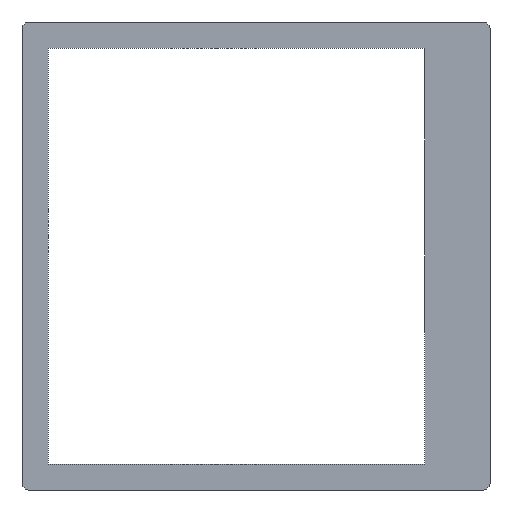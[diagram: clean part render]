
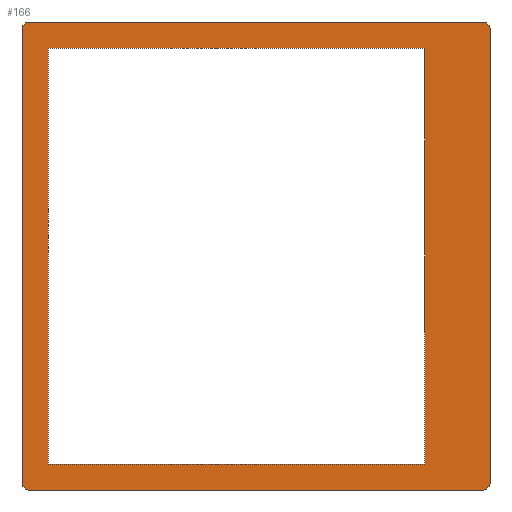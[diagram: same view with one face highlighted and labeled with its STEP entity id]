
A CAD part, front view. The second image highlights one B-rep face of the part: STEP entity #166.
In plain terms, the highlighted planar face has unit normal (0, -1, 0).
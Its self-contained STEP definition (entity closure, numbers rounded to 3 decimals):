
#61=LINE('',#1245,#93);
#66=LINE('',#1284,#98);
#77=LINE('',#1323,#109);
#79=LINE('',#1352,#111);
#82=LINE('',#1358,#114);
#86=LINE('',#1366,#118);
#88=LINE('',#1374,#120);
#89=LINE('',#1376,#121);
#93=VECTOR('',#987,1.);
#98=VECTOR('',#1018,1.);
#109=VECTOR('',#1051,1.);
#111=VECTOR('',#1081,1.);
#114=VECTOR('',#1086,1.);
#118=VECTOR('',#1092,1.);
#120=VECTOR('',#1104,1.);
#121=VECTOR('',#1105,1.);
#166=ADVANCED_FACE('',(#263,#264),#215,.T.);
#215=PLANE('',#911);
#263=FACE_BOUND('',#372,.T.);
#264=FACE_BOUND('',#373,.T.);
#372=EDGE_LOOP('',(#530,#531,#532,#533,#534,#535,#536,#537));
#373=EDGE_LOOP('',(#538,#539,#540,#541));
#530=ORIENTED_EDGE('',*,*,#772,.T.);
#531=ORIENTED_EDGE('',*,*,#774,.T.);
#532=ORIENTED_EDGE('',*,*,#768,.T.);
#533=ORIENTED_EDGE('',*,*,#775,.T.);
#534=ORIENTED_EDGE('',*,*,#765,.T.);
#535=ORIENTED_EDGE('',*,*,#776,.T.);
#536=ORIENTED_EDGE('',*,*,#751,.T.);
#537=ORIENTED_EDGE('',*,*,#777,.T.);
#538=ORIENTED_EDGE('',*,*,#778,.F.);
#539=ORIENTED_EDGE('',*,*,#733,.F.);
#540=ORIENTED_EDGE('',*,*,#715,.F.);
#541=ORIENTED_EDGE('',*,*,#779,.F.);
#637=VERTEX_POINT('',#1244);
#638=VERTEX_POINT('',#1246);
#655=VERTEX_POINT('',#1285);
#667=VERTEX_POINT('',#1322);
#668=VERTEX_POINT('',#1324);
#681=VERTEX_POINT('',#1353);
#682=VERTEX_POINT('',#1354);
#683=VERTEX_POINT('',#1359);
#684=VERTEX_POINT('',#1360);
#685=VERTEX_POINT('',#1365);
#686=VERTEX_POINT('',#1367);
#687=VERTEX_POINT('',#1375);
#715=EDGE_CURVE('',#637,#638,#61,.T.);
#733=EDGE_CURVE('',#638,#655,#66,.T.);
#751=EDGE_CURVE('',#668,#667,#77,.T.);
#765=EDGE_CURVE('',#681,#682,#79,.T.);
#768=EDGE_CURVE('',#683,#684,#82,.T.);
#772=EDGE_CURVE('',#686,#685,#86,.T.);
#774=EDGE_CURVE('',#685,#683,#834,.T.);
#775=EDGE_CURVE('',#684,#681,#835,.T.);
#776=EDGE_CURVE('',#682,#668,#836,.T.);
#777=EDGE_CURVE('',#667,#686,#837,.T.);
#778=EDGE_CURVE('',#655,#687,#88,.T.);
#779=EDGE_CURVE('',#687,#637,#89,.T.);
#834=CIRCLE('',#907,0.5);
#835=CIRCLE('',#908,0.5);
#836=CIRCLE('',#909,0.5);
#837=CIRCLE('',#910,0.5);
#907=AXIS2_PLACEMENT_3D('',#1370,#1096,#1097);
#908=AXIS2_PLACEMENT_3D('',#1371,#1098,#1099);
#909=AXIS2_PLACEMENT_3D('',#1372,#1100,#1101);
#910=AXIS2_PLACEMENT_3D('',#1373,#1102,#1103);
#911=AXIS2_PLACEMENT_3D('',#1377,#1106,#1107);
#987=DIRECTION('',(0.,0.,1.));
#1018=DIRECTION('',(-1.,0.,0.));
#1051=DIRECTION('',(0.,0.,1.));
#1081=DIRECTION('',(1.,0.,0.));
#1086=DIRECTION('',(0.,0.,-1.));
#1092=DIRECTION('',(-1.,0.,0.));
#1096=DIRECTION('',(0.,-1.,0.));
#1097=DIRECTION('',(0.,0.,-1.));
#1098=DIRECTION('',(0.,-1.,0.));
#1099=DIRECTION('',(0.,0.,-1.));
#1100=DIRECTION('',(0.,-1.,0.));
#1101=DIRECTION('',(0.,0.,-1.));
#1102=DIRECTION('',(0.,-1.,0.));
#1103=DIRECTION('',(0.,0.,-1.));
#1104=DIRECTION('',(0.,0.,-1.));
#1105=DIRECTION('',(1.,0.,0.));
#1106=DIRECTION('',(0.,-1.,0.));
#1107=DIRECTION('',(0.,0.,-1.));
#1244=CARTESIAN_POINT('',(455.,-297.202,1701.8));
#1245=CARTESIAN_POINT('',(455.,-297.202,1701.8));
#1246=CARTESIAN_POINT('',(455.,-297.202,1733.8));
#1284=CARTESIAN_POINT('',(455.,-297.202,1733.8));
#1285=CARTESIAN_POINT('',(426.,-297.202,1733.8));
#1322=CARTESIAN_POINT('',(460.,-297.202,1735.3));
#1323=CARTESIAN_POINT('',(460.,-297.202,1700.8));
#1324=CARTESIAN_POINT('',(460.,-297.202,1700.3));
#1352=CARTESIAN_POINT('',(425.,-297.202,1699.8));
#1353=CARTESIAN_POINT('',(424.5,-297.202,1699.8));
#1354=CARTESIAN_POINT('',(459.5,-297.202,1699.8));
#1358=CARTESIAN_POINT('',(424.,-297.202,1734.8));
#1359=CARTESIAN_POINT('',(424.,-297.202,1735.3));
#1360=CARTESIAN_POINT('',(424.,-297.202,1700.3));
#1365=CARTESIAN_POINT('',(424.5,-297.202,1735.8));
#1366=CARTESIAN_POINT('',(459.,-297.202,1735.8));
#1367=CARTESIAN_POINT('',(459.5,-297.202,1735.8));
#1370=CARTESIAN_POINT('',(424.5,-297.202,1735.3));
#1371=CARTESIAN_POINT('',(424.5,-297.202,1700.3));
#1372=CARTESIAN_POINT('',(459.5,-297.202,1700.3));
#1373=CARTESIAN_POINT('',(459.5,-297.202,1735.3));
#1374=CARTESIAN_POINT('',(426.,-297.202,1733.8));
#1375=CARTESIAN_POINT('',(426.,-297.202,1701.8));
#1376=CARTESIAN_POINT('',(426.,-297.202,1701.8));
#1377=CARTESIAN_POINT('',(413.,-297.202,1746.8));
